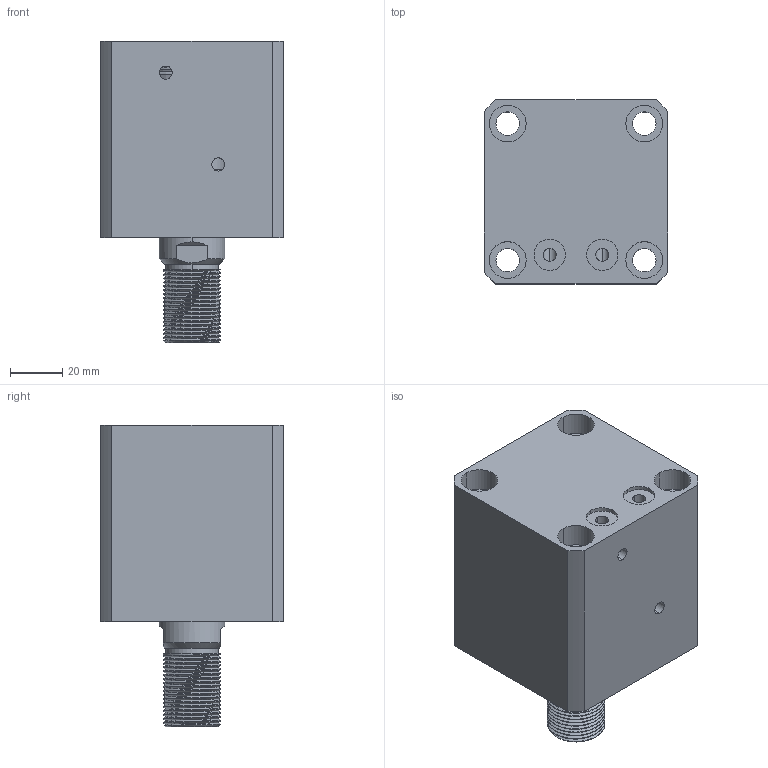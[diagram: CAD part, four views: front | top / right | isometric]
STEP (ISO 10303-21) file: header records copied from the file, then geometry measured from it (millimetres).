
FILE_DESCRIPTION (( 'STEP AP214' ), '1' );
FILE_NAME ('chtb-sdmb40x20w_asm.STEP', '2018-06-07T01:27:57', ( 'Windows' ), ( 'Microsoft' ), 'SwSTEP 2.0', 'SolidWorks 2015', '' );
FILE_SCHEMA (( 'AUTOMOTIVE_DESIGN' ));
Length unit declared in the file: millimetre
Products named in the file (4): CHTB-SDMB40X20NBT; CHTB-SD40X20WHSG; CHTB-SD40QG; chtb-sdmb40x20w_asm
Assembly tree (3 placements, depth 2):
  chtb-sdmb40x20w_asm
    CHTB-SD40QG
    CHTB-SD40X20WHSG
    CHTB-SDMB40X20NBT
Bounding box: 70 x 70 x 115 mm (x, y, z)
Volume: 333966.3 mm3; surface area: 73233.9 mm2
Topology: 3 solids, 4 shells, 201 faces, 539 edges, 359 vertices
Faces by surface type: cylinder 122, plane 38, bspline 16, torus 14, cone 11
Entity records: 13455 total; most frequent: CARTESIAN_POINT 8586, ORIENTED_EDGE 1066, DIRECTION 904, EDGE_CURVE 533, AXIS2_PLACEMENT_3D 374, VERTEX_POINT 359, EDGE_LOOP 238, ADVANCED_FACE 201
